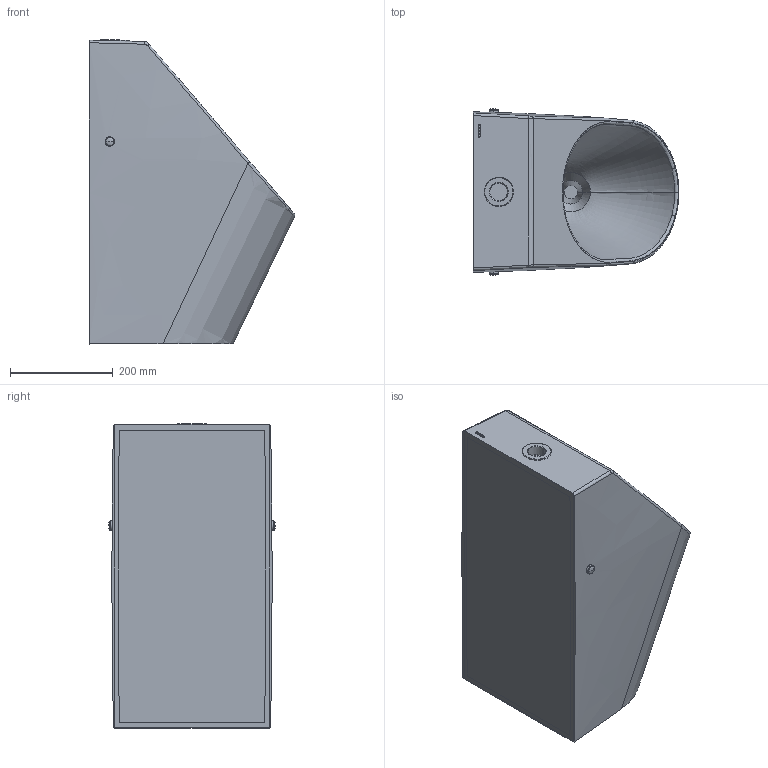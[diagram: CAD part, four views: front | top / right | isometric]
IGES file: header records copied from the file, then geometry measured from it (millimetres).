
Start section:  PTC IGES file: uwn926ets.igs
Global section: file name: uwn926ets.igs; native system: Creo Parametric by PTC Inc.; preprocessor: 2015290; author: Uporabnik; organization: Unknown; date: 20161202.095952; units: millimetre
Bounding box: 399.99 x 324.44 x 592.77 mm (x, y, z)
Volume: 39116959.6 mm3; surface area: 1417606.3 mm2
Topology: 1 solids, 8 shells, 155 faces, 459 edges, 326 vertices
Faces by surface type: bspline 74, revolution 42, extrusion 39
